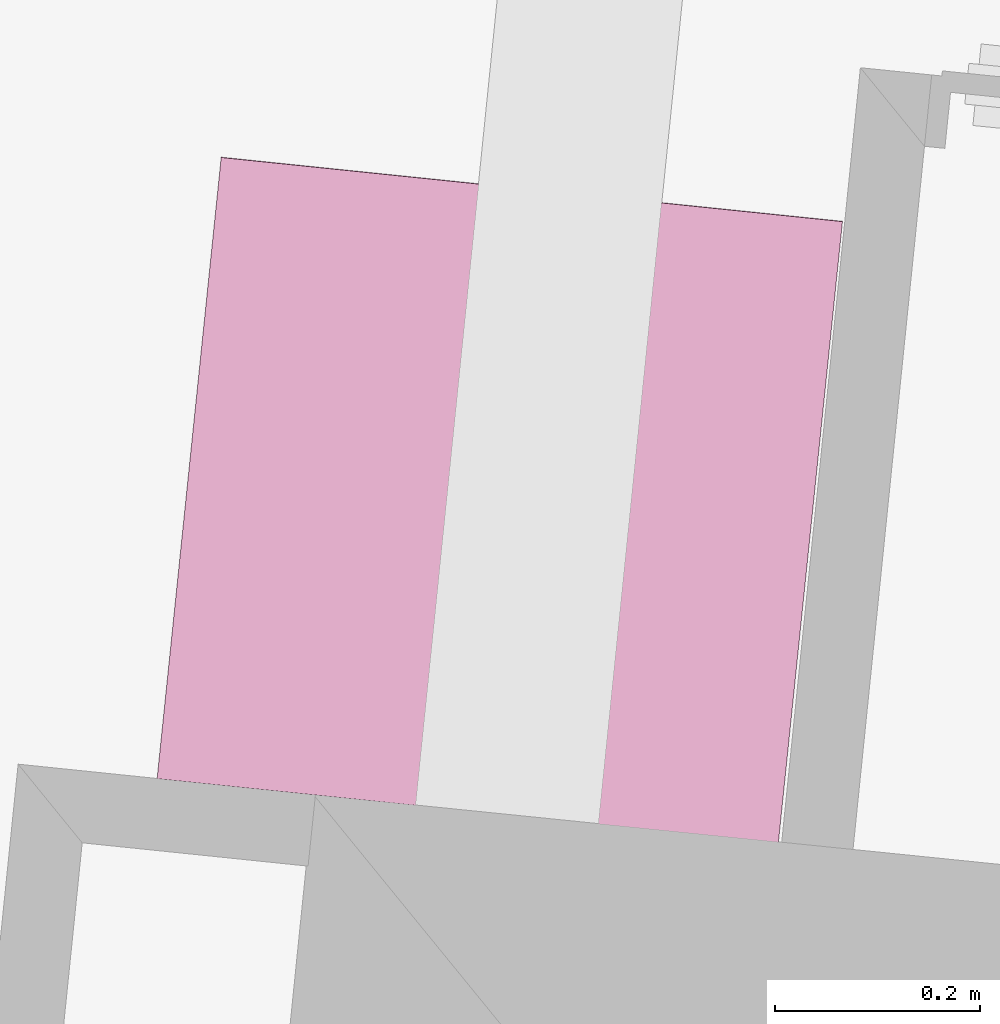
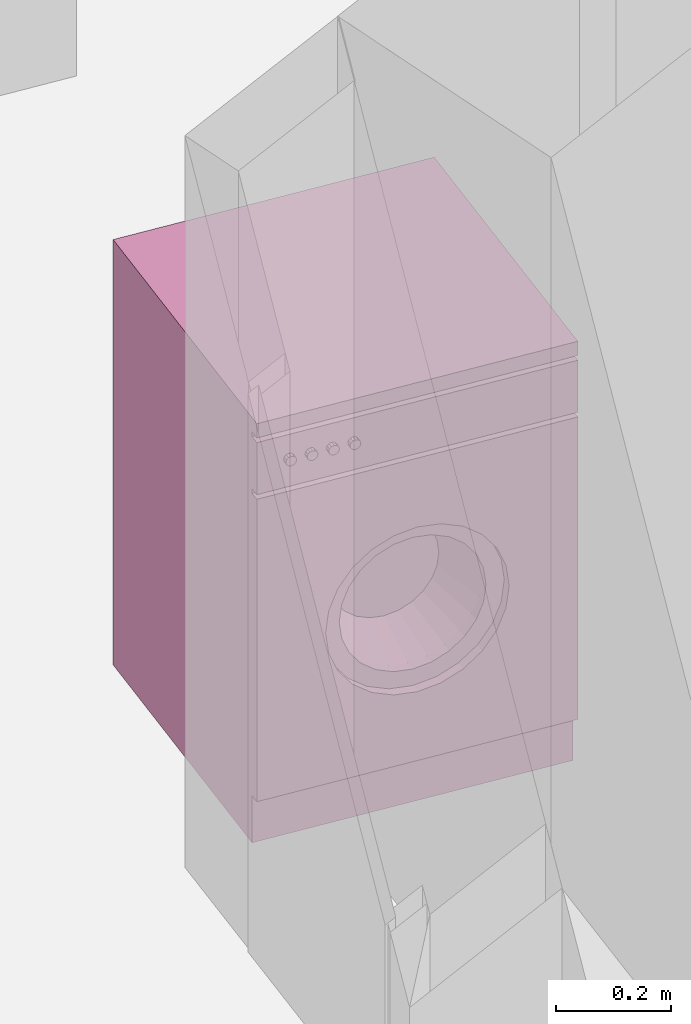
# One storey, part 132 of 164: 1 furnishing.
"""IFC2X3 building model written with IfcOpenShell, lengths in millimetres."""

import ifcopenshell
import ifcopenshell.guid

model = None  # the IFC model being written
_history = None  # IfcOwnerHistory: only IFC2X3 demands one
_inside = {}  # id of a spatial element -> (the spatial element, [elements in it])
_under = {}  # id of a project, library or spatial element -> (it, [spatial elements below it])
_declared = {}  # id of a project -> (the project, [libraries it declares])
_typed = {}  # id of a type object -> (the type object, [elements of that type])
_made_of = {}  # id of a material, layer set ... -> (it, [elements and type objects made of it])


def new_model(schema):
    """Start an empty IFC model of exactly this schema.

    Asked for "IFC4X3", IfcOpenShell would pick the latest addendum, in which some entities
    have other attributes; the version numbers below select the first issue.
    IFC2X3 requires an IfcOwnerHistory on every rooted entity: one is made here for all.
    """
    global model, _history
    if schema == "IFC4X3":
        model = ifcopenshell.file(schema_version=(4, 3, 0, 0))
    else:
        model = ifcopenshell.file(schema=schema)
    _inside.clear()
    _under.clear()
    _declared.clear()
    _typed.clear()
    _made_of.clear()
    _history = None
    if model.schema == "IFC2X3":
        org = make("IfcOrganization", Name="unknown")
        user = make(
            "IfcPersonAndOrganization",
            ThePerson=make("IfcPerson", FamilyName="unknown"),
            TheOrganization=org,
        )
        app = make(
            "IfcApplication",
            ApplicationDeveloper=org,
            Version="unknown",
            ApplicationFullName="unknown",
            ApplicationIdentifier="unknown",
        )
        _history = make(
            "IfcOwnerHistory",
            OwningUser=user,
            OwningApplication=app,
            ChangeAction="ADDED",
            CreationDate=0,
        )
    return model


def make(cls, **values):
    """One entity of the class cls with the attributes given. An attribute that is None is left unset."""
    return model.create_entity(
        cls, **{name: value for name, value in values.items() if value is not None}
    )


def entity(cls, *values):
    """Any entity or typed value of the class cls, its attributes in the order of the schema. None: left unset."""
    e = model.create_entity(cls)
    for i, value in enumerate(values):
        if value is not None:
            e[i] = value
    return e


def rooted(cls, **values):
    """An entity with a GlobalId (a new one), such as an element, a storey or a relation."""
    return make(cls, GlobalId=ifcopenshell.guid.new(), OwnerHistory=_history, **values)


def si_unit(unit_type, name, prefix=None):
    """IfcSIUnit, for example si_unit("LENGTHUNIT", "METRE", prefix="MILLI")."""
    return make("IfcSIUnit", UnitType=unit_type, Prefix=prefix, Name=name)


def converted_unit(unit_type, name, factor, base, dimensions=None, offset=None):
    """IfcConversionBasedUnit, such as the inch: factor (a typed value) times the base unit."""
    return make(
        "IfcConversionBasedUnit"
        if offset is None
        else "IfcConversionBasedUnitWithOffset",
        ConversionOffset=offset,
        Dimensions=None
        if dimensions is None
        else entity("IfcDimensionalExponents", *dimensions),
        UnitType=unit_type,
        Name=name,
        ConversionFactor=make(
            "IfcMeasureWithUnit", ValueComponent=factor, UnitComponent=base
        ),
    )


def derived_unit(unit_type, elements):
    """IfcDerivedUnit: a product of units, each with its exponent."""
    return make(
        "IfcDerivedUnit",
        Elements=[
            make("IfcDerivedUnitElement", Unit=unit, Exponent=power)
            for unit, power in elements
        ],
        UnitType=unit_type,
    )


def money_unit(currency):
    """IfcMonetaryUnit."""
    return make("IfcMonetaryUnit", Currency=currency)


def assignment(units):
    """IfcUnitAssignment: the units of a project."""
    return None if units is None else make("IfcUnitAssignment", Units=units)


def point(xyz):
    """IfcCartesianPoint."""
    return None if xyz is None else make("IfcCartesianPoint", Coordinates=xyz)


def direction(xyz):
    """IfcDirection."""
    return None if xyz is None else make("IfcDirection", DirectionRatios=xyz)


def frame(location, z_axis=None, x_axis=None):
    """IfcAxis2Placement3D, a coordinate frame: its origin and axes. An axis left out is left unset."""
    return make(
        "IfcAxis2Placement3D",
        Location=point(location),
        Axis=direction(z_axis),
        RefDirection=direction(x_axis),
    )


def origin_with_axes():
    """The frame at (0, 0, 0) with the z axis (0, 0, 1) and the x axis (1, 0, 0) written out."""
    return frame((0.0, 0.0, 0.0), z_axis=(0.0, 0.0, 1.0), x_axis=(1.0, 0.0, 0.0))


def place(relative_to, where):
    """IfcLocalPlacement: puts the frame where relative to a parent placement (None: the world)."""
    return make(
        "IfcLocalPlacement", PlacementRelTo=relative_to, RelativePlacement=where
    )


def context(
    kind, dimensions, precision=None, world=None, true_north=None, identifier=None
):
    """IfcGeometricRepresentationContext, for example the 3D "Model" context."""
    return make(
        "IfcGeometricRepresentationContext",
        ContextIdentifier=identifier,
        ContextType=kind,
        CoordinateSpaceDimension=dimensions,
        Precision=precision,
        WorldCoordinateSystem=world,
        TrueNorth=true_north,
    )


def subcontext(parent, identifier, kind, view, scale=None):
    """IfcGeometricRepresentationSubContext, for example "Body" below "Model"."""
    return make(
        "IfcGeometricRepresentationSubContext",
        ContextIdentifier=identifier,
        ContextType=kind,
        ParentContext=parent,
        TargetScale=scale,
        TargetView=view,
    )


def project(units=None, contexts=None):
    """IfcProject with its units and contexts."""
    return rooted(
        "IfcProject",
        Name="project",
        RepresentationContexts=contexts,
        UnitsInContext=assignment(units),
    )


def spatial(cls, under=None, at=None, **own):
    """A site, building, storey or space (cls), placed at a placement, below another one or the project."""
    s = rooted(cls, ObjectPlacement=at, **own)
    if under is not None:
        _under.setdefault(under.id(), (under, []))[1].append(s)
    return s


def faces_of(points, faces, orient=None, outer=None):
    """IfcFace entities. A face is a list of loops; a loop is a list of indices into points, from 0.

    orient and outer hold one flag for each loop. By default every Orientation is true, the
    first loop of a face is its IfcFaceOuterBound and the others are IfcFaceBound.
    """
    made = []
    for i, loops in enumerate(faces):
        bounds = []
        for j, loop in enumerate(loops):
            is_outer = j == 0 if outer is None else outer[i][j]
            bounds.append(
                make(
                    "IfcFaceOuterBound" if is_outer else "IfcFaceBound",
                    Bound=make("IfcPolyLoop", Polygon=[points[k] for k in loop]),
                    Orientation=True if orient is None else orient[i][j],
                )
            )
        made.append(make("IfcFace", Bounds=bounds))
    return made


def open_shell(faces, orient=None, outer=None):
    """The faces of one IfcOpenShell. surface_model builds it on its shared points."""
    return ("IfcOpenShell", faces, orient, outer)


def faceted_brep(points, faces, orient=None, outer=None, voids=None):
    """IfcFacetedBrep: a solid bounded by flat faces; with voids (closed shells), ...WithVoids."""
    shared = [point(p) for p in points]
    hull = make("IfcClosedShell", CfsFaces=faces_of(shared, faces, orient, outer))
    if voids is None:
        return make("IfcFacetedBrep", Outer=hull)
    return make(
        "IfcFacetedBrepWithVoids",
        Outer=hull,
        Voids=[
            make(cls, CfsFaces=faces_of(shared, fs, o, b)) for cls, fs, o, b in voids
        ],
    )


def surface_model(cls, points, shells):
    """IfcFaceBasedSurfaceModel or IfcShellBasedSurfaceModel (cls): surfaces that need not close."""
    shared = [point(p) for p in points]
    made = [make(c, CfsFaces=faces_of(shared, fs, o, b)) for c, fs, o, b in shells]
    if cls == "IfcFaceBasedSurfaceModel":
        return make(cls, FbsmFaces=made)
    return make(cls, SbsmBoundary=made)


def shape(context_of_items, identifier, shape_type, items):
    """IfcShapeRepresentation: the items that make up one representation, for example the "Body"."""
    return make(
        "IfcShapeRepresentation",
        ContextOfItems=context_of_items,
        RepresentationIdentifier=identifier,
        RepresentationType=shape_type,
        Items=items,
    )


def source(mapping_origin, context_of_items, identifier, shape_type, items):
    """IfcRepresentationMap: a shape defined once, which mapped items show again and again."""
    return make(
        "IfcRepresentationMap",
        MappingOrigin=mapping_origin,
        MappedRepresentation=shape(context_of_items, identifier, shape_type, items),
    )


def transform(
    local_origin,
    x_axis=None,
    y_axis=None,
    z_axis=None,
    scale=None,
    scale2=None,
    scale3=None,
    uniform=True,
):
    """IfcCartesianTransformationOperator3D, or its non-uniform kind. x_axis, y_axis, z_axis: its Axis1, 2, 3."""
    if uniform:
        return make(
            "IfcCartesianTransformationOperator3D",
            Axis1=direction(x_axis),
            Axis2=direction(y_axis),
            LocalOrigin=point(local_origin),
            Scale=scale,
            Axis3=direction(z_axis),
        )
    return make(
        "IfcCartesianTransformationOperator3DnonUniform",
        Axis1=direction(x_axis),
        Axis2=direction(y_axis),
        LocalOrigin=point(local_origin),
        Scale=scale,
        Axis3=direction(z_axis),
        Scale2=scale2,
        Scale3=scale3,
    )


def mapped(mapping_source, mapping_target):
    """IfcMappedItem: shows the shape of a source again, moved by a transform."""
    return make(
        "IfcMappedItem", MappingSource=mapping_source, MappingTarget=mapping_target
    )


def made_of(thing, what):
    """Note that an element or type object is made of a material, layer set ...; save() writes the relation."""
    if what is not None:
        _made_of.setdefault(what.id(), (what, []))[1].append(thing)
    return thing


def type_object(cls, material=None, **own):
    """A type object (cls), such as IfcWallType, which elements share."""
    return made_of(rooted(cls, **own), material)


def element(
    cls,
    number,
    at=None,
    inside=None,
    cuts=None,
    type_object=None,
    material=None,
    context=None,
    identifier="Body",
    shape_type=None,
    held_by="IfcProductDefinitionShape",
    body=None,
    shapes=None,
    **own,
):
    """One element of the class cls, such as IfcWall. Its Tag is "e" and its number.

    at: its placement. inside: the storey or other place that contains it. cuts: it is an
    opening in that element (IfcRelVoidsElement). A single representation is given by context,
    identifier, shape_type and body (its items); several are given by shapes. held_by: the class
    of the entity that holds the representations. save() writes the other relations.
    """
    e = rooted(cls, Tag="e%d" % number, ObjectPlacement=at, **own)
    if body is not None:
        shapes = [shape(context, identifier, shape_type, body)]
    if shapes is not None:
        e.Representation = make(held_by, Representations=shapes)
    if inside is not None:
        _inside.setdefault(inside.id(), (inside, []))[1].append(e)
    if cuts is not None:
        rooted(
            "IfcRelVoidsElement", RelatingBuildingElement=cuts, RelatedOpeningElement=e
        )
    if type_object is not None:
        _typed.setdefault(type_object.id(), (type_object, []))[1].append(e)
    return made_of(e, material)


def aggregate(whole, parts):
    """IfcRelAggregates: a whole, such as a stair, and the parts it consists of."""
    return rooted("IfcRelAggregates", RelatingObject=whole, RelatedObjects=parts)


def save(model, path):
    """Write the relations noted so far, then the file.

    IfcRelAggregates (storeys below a building ...), IfcRelContainedInSpatialStructure (elements
    in a storey), IfcRelDefinesByType, IfcRelAssociatesMaterial and IfcRelDeclares: one each for
    every whole, place, type object, material and project.
    """
    for whole, parts in _under.values():
        aggregate(whole, parts)
    for where, things in _inside.values():
        rooted(
            "IfcRelContainedInSpatialStructure",
            RelatedElements=things,
            RelatingStructure=where,
        )
    for kind, things in _typed.values():
        rooted("IfcRelDefinesByType", RelatedObjects=things, RelatingType=kind)
    for what, things in _made_of.values():
        rooted("IfcRelAssociatesMaterial", RelatedObjects=things, RelatingMaterial=what)
    for by, libraries in _declared.values():
        rooted("IfcRelDeclares", RelatingContext=by, RelatedDefinitions=libraries)
    model.write(path)


model = new_model("IFC2X3")

# Units and contexts
model_context = context("Model", 3, precision=0.01, world=origin_with_axes(), true_north=direction((0.0, 1.0)))
body_context = subcontext(model_context, "Body", "Model", "MODEL_VIEW")
ifc_project = project(units=[si_unit("LENGTHUNIT", "METRE", prefix="MILLI"), si_unit("AREAUNIT", "SQUARE_METRE"), si_unit("VOLUMEUNIT", "CUBIC_METRE"), converted_unit("PLANEANGLEUNIT", "DEGREE", entity("IfcPlaneAngleMeasure", 0.0174532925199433), si_unit("PLANEANGLEUNIT", "RADIAN"), dimensions=[0, 0, 0, 0, 0, 0, 0]), money_unit("USD"), converted_unit("TIMEUNIT", "Year", entity("IfcTimeMeasure", 31557600.0), si_unit("TIMEUNIT", "SECOND"), dimensions=[0, 0, 1, 0, 0, 0, 0]), si_unit("MASSUNIT", "GRAM", prefix="KILO"), si_unit("THERMODYNAMICTEMPERATUREUNIT", "DEGREE_CELSIUS"), si_unit("LUMINOUSINTENSITYUNIT", "LUMEN"), si_unit("ENERGYUNIT", "JOULE", prefix="MEGA"), derived_unit("THERMALCONDUCTANCEUNIT", [(si_unit("POWERUNIT", "WATT"), 1), (si_unit("LENGTHUNIT", "METRE"), -1), (si_unit("THERMODYNAMICTEMPERATUREUNIT", "KELVIN"), -1)]), derived_unit("SPECIFICHEATCAPACITYUNIT", [(si_unit("ENERGYUNIT", "JOULE"), 1), (si_unit("MASSUNIT", "GRAM", prefix="KILO"), -1), (si_unit("THERMODYNAMICTEMPERATUREUNIT", "KELVIN"), -1)]), derived_unit("MASSDENSITYUNIT", [(si_unit("MASSUNIT", "GRAM", prefix="KILO"), 1), (si_unit("VOLUMEUNIT", "CUBIC_METRE"), -1)])], contexts=[model_context])

# Site, building, storey
site_placement = place(None, origin_with_axes())
site = spatial("IfcSite", under=ifc_project, at=site_placement, Name="Site", CompositionType="ELEMENT")
building_placement = place(site_placement, origin_with_axes())
building = spatial("IfcBuilding", under=site, at=building_placement, Name="Bâtiment", CompositionType="ELEMENT")
storey_placement = place(building_placement, frame((0.0, 0.0, 5750.0), z_axis=(0.0, 0.0, 1.0), x_axis=(1.0, 0.0, 0.0)))
storey = spatial("IfcBuildingStorey", under=building, at=storey_placement, Name="Etage1", CompositionType="ELEMENT", Elevation=5750.0)

# Furnishing
furnishing_element_type = type_object("IfcFurnishingElementType", Name="Machine à laver")
shared_shape = source(origin_with_axes(), body_context, "Body", "SurfaceModel", [
    faceted_brep([(0.0, 20.33333333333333, 100.0), (610.0, 20.33333333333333, 100.0), (610.0, 0.0, 100.0), (0.0, 0.0, 100.0), (0.0, 20.33333333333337, 740.0), (610.0, 20.33333333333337, 740.0), (479.2857142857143, 20.33333333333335, 420.0000000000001), (473.3470725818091, 20.33333333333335, 465.1084621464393), (455.935856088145, 20.33333333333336, 507.1428571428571), (428.2386104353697, 20.33333333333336, 543.2386104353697), (392.1428571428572, 20.33333333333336, 570.935856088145), (350.1084621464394, 20.33333333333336, 588.347072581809), (305.0000000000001, 20.33333333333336, 594.2857142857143), (259.8915378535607, 20.33333333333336, 588.347072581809), (217.8571428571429, 20.33333333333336, 570.9358560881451), (181.7613895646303, 20.33333333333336, 543.2386104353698), (154.0641439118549, 20.33333333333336, 507.1428571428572), (136.6529274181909, 20.33333333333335, 465.1084621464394), (130.7142857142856, 20.33333333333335, 420.0000000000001), (136.6529274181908, 20.33333333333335, 374.8915378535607), (154.0641439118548, 20.33333333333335, 332.8571428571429), (181.7613895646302, 20.33333333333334, 296.7613895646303), (217.8571428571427, 20.33333333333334, 269.064143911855), (259.8915378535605, 20.33333333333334, 251.6529274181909), (304.9999999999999, 20.33333333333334, 245.7142857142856), (350.1084621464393, 20.33333333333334, 251.6529274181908), (392.1428571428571, 20.33333333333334, 269.0641439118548), (428.2386104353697, 20.33333333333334, 296.7613895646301), (455.935856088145, 20.33333333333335, 332.8571428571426), (473.3470725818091, 20.33333333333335, 374.8915378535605), (610.0, 0.0, 740.0), (0.0, 0.0, 740.0), (479.2857142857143, 0.0, 420.0000000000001), (473.3470725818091, 0.0, 374.8915378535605), (455.935856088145, 0.0, 332.8571428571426), (428.2386104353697, 0.0, 296.7613895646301), (392.1428571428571, 0.0, 269.0641439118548), (350.1084621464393, 0.0, 251.6529274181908), (304.9999999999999, 0.0, 245.7142857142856), (259.8915378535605, 0.0, 251.6529274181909), (217.8571428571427, 0.0, 269.064143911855), (181.7613895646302, 0.0, 296.7613895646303), (154.0641439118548, 0.0, 332.8571428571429), (136.6529274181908, 0.0, 374.8915378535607), (130.7142857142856, 0.0, 420.0000000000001), (136.6529274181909, 0.0, 465.1084621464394), (154.0641439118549, 0.0, 507.1428571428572), (181.7613895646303, 0.0, 543.2386104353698), (217.8571428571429, 0.0, 570.9358560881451), (259.8915378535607, 0.0, 588.347072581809), (305.0000000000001, 0.0, 594.2857142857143), (350.1084621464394, 0.0, 588.347072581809), (392.1428571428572, 0.0, 570.935856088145), (428.2386104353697, 0.0, 543.2386104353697), (455.935856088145, 0.0, 507.1428571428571), (473.3470725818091, 0.0, 465.1084621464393)], [[[0, 1, 2, 3]], [[0, 4, 5, 1], [6, 7, 8, 9, 10, 11, 12, 13, 14, 15, 16, 17, 18, 19, 20, 21, 22, 23, 24, 25, 26, 27, 28, 29]], [[1, 5, 30, 2]], [[3, 2, 30, 31], [32, 33, 34, 35, 36, 37, 38, 39, 40, 41, 42, 43, 44, 45, 46, 47, 48, 49, 50, 51, 52, 53, 54, 55]], [[4, 0, 3, 31]], [[5, 4, 31, 30]], [[7, 6, 32, 55]], [[8, 7, 55, 54]], [[9, 8, 54, 53]], [[10, 9, 53, 52]], [[11, 10, 52, 51]], [[12, 11, 51, 50]], [[13, 12, 50, 49]], [[14, 13, 49, 48]], [[15, 14, 48, 47]], [[16, 15, 47, 46]], [[17, 16, 46, 45]], [[18, 17, 45, 44]], [[19, 18, 44, 43]], [[20, 19, 43, 42]], [[21, 20, 42, 41]], [[22, 21, 41, 40]], [[23, 22, 40, 39]], [[24, 23, 39, 38]], [[25, 24, 38, 37]], [[26, 25, 37, 36]], [[27, 26, 36, 35]], [[28, 27, 35, 34]], [[29, 28, 34, 33]], [[6, 29, 33, 32]]]),
    faceted_brep([(479.2857142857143, 40.66666666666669, 420.0000000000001), (473.3470725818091, 40.66666666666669, 465.1084621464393), (473.3470725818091, 20.33333333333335, 465.1084621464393), (479.2857142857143, 20.33333333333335, 420.0000000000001), (473.3470725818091, 40.66666666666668, 374.8915378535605), (455.935856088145, 40.66666666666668, 332.8571428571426), (428.2386104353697, 40.66666666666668, 296.7613895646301), (392.1428571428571, 40.66666666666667, 269.0641439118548), (350.1084621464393, 40.66666666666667, 251.6529274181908), (304.9999999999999, 40.66666666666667, 245.7142857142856), (259.8915378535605, 40.66666666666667, 251.6529274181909), (217.8571428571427, 40.66666666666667, 269.064143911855), (181.7613895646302, 40.66666666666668, 296.7613895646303), (154.0641439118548, 40.66666666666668, 332.8571428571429), (136.6529274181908, 40.66666666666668, 374.8915378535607), (130.7142857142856, 40.66666666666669, 420.0000000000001), (136.6529274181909, 40.66666666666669, 465.1084621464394), (154.0641439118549, 40.66666666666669, 507.1428571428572), (181.7613895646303, 40.66666666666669, 543.2386104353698), (217.8571428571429, 40.66666666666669, 570.9358560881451), (259.8915378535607, 40.66666666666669, 588.347072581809), (305.0000000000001, 40.66666666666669, 594.2857142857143), (350.1084621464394, 40.66666666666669, 588.347072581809), (392.1428571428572, 40.66666666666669, 570.935856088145), (428.2386104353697, 40.66666666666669, 543.2386104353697), (455.935856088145, 40.66666666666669, 507.1428571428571), (444.4285714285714, 40.66666666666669, 420.0000000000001), (439.6776580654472, 40.66666666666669, 456.0867697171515), (425.748684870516, 40.66666666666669, 489.7142857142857), (403.5908883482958, 40.66666666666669, 518.5908883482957), (374.7142857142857, 40.66666666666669, 540.748684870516), (341.0867697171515, 40.66666666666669, 554.6776580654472), (305.0000000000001, 40.66666666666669, 559.4285714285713), (268.9132302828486, 40.66666666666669, 554.6776580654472), (235.2857142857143, 40.66666666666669, 540.7486848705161), (206.4091116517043, 40.66666666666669, 518.5908883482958), (184.251315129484, 40.66666666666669, 489.7142857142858), (170.3223419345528, 40.66666666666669, 456.0867697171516), (165.5714285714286, 40.66666666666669, 420.0000000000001), (170.3223419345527, 40.66666666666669, 383.9132302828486), (184.2513151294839, 40.66666666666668, 350.2857142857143), (206.4091116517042, 40.66666666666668, 321.4091116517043), (235.2857142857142, 40.66666666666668, 299.251315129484), (268.9132302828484, 40.66666666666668, 285.3223419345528), (304.9999999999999, 40.66666666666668, 280.5714285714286), (341.0867697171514, 40.66666666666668, 285.3223419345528), (374.7142857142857, 40.66666666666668, 299.2513151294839), (403.5908883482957, 40.66666666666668, 321.4091116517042), (425.748684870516, 40.66666666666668, 350.2857142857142), (439.6776580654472, 40.66666666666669, 383.9132302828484), (455.935856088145, 20.33333333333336, 507.1428571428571), (428.2386104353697, 20.33333333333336, 543.2386104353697), (392.1428571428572, 20.33333333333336, 570.935856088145), (350.1084621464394, 20.33333333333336, 588.347072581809), (305.0000000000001, 20.33333333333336, 594.2857142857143), (259.8915378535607, 20.33333333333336, 588.347072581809), (217.8571428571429, 20.33333333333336, 570.9358560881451), (181.7613895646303, 20.33333333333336, 543.2386104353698), (154.0641439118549, 20.33333333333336, 507.1428571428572), (136.6529274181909, 20.33333333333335, 465.1084621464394), (130.7142857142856, 20.33333333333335, 420.0000000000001), (136.6529274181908, 20.33333333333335, 374.8915378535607), (154.0641439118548, 20.33333333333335, 332.8571428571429), (181.7613895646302, 20.33333333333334, 296.7613895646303), (217.8571428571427, 20.33333333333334, 269.064143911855), (259.8915378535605, 20.33333333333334, 251.6529274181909), (304.9999999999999, 20.33333333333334, 245.7142857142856), (350.1084621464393, 20.33333333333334, 251.6529274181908), (392.1428571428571, 20.33333333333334, 269.0641439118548), (428.2386104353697, 20.33333333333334, 296.7613895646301), (455.935856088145, 20.33333333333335, 332.8571428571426), (473.3470725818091, 20.33333333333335, 374.8915378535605), (444.4285714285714, 20.33333333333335, 420.0000000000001), (439.6776580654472, 20.33333333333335, 383.9132302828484), (425.748684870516, 20.33333333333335, 350.2857142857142), (403.5908883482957, 20.33333333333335, 321.4091116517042), (374.7142857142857, 20.33333333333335, 299.2513151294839), (341.0867697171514, 20.33333333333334, 285.3223419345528), (304.9999999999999, 20.33333333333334, 280.5714285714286), (268.9132302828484, 20.33333333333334, 285.3223419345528), (235.2857142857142, 20.33333333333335, 299.251315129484), (206.4091116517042, 20.33333333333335, 321.4091116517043), (184.2513151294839, 20.33333333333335, 350.2857142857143), (170.3223419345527, 20.33333333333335, 383.9132302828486), (165.5714285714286, 20.33333333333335, 420.0000000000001), (170.3223419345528, 20.33333333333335, 456.0867697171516), (184.251315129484, 20.33333333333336, 489.7142857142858), (206.4091116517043, 20.33333333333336, 518.5908883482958), (235.2857142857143, 20.33333333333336, 540.7486848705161), (268.9132302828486, 20.33333333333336, 554.6776580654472), (305.0000000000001, 20.33333333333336, 559.4285714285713), (341.0867697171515, 20.33333333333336, 554.6776580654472), (374.7142857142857, 20.33333333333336, 540.748684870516), (403.5908883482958, 20.33333333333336, 518.5908883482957), (425.748684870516, 20.33333333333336, 489.7142857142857), (439.6776580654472, 20.33333333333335, 456.0867697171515)], [[[0, 1, 2, 3]], [[0, 4, 5, 6, 7, 8, 9, 10, 11, 12, 13, 14, 15, 16, 17, 18, 19, 20, 21, 22, 23, 24, 25, 1], [26, 27, 28, 29, 30, 31, 32, 33, 34, 35, 36, 37, 38, 39, 40, 41, 42, 43, 44, 45, 46, 47, 48, 49]], [[1, 25, 50, 2]], [[3, 2, 50, 51, 52, 53, 54, 55, 56, 57, 58, 59, 60, 61, 62, 63, 64, 65, 66, 67, 68, 69, 70, 71], [72, 73, 74, 75, 76, 77, 78, 79, 80, 81, 82, 83, 84, 85, 86, 87, 88, 89, 90, 91, 92, 93, 94, 95]], [[4, 0, 3, 71]], [[5, 4, 71, 70]], [[6, 5, 70, 69]], [[7, 6, 69, 68]], [[8, 7, 68, 67]], [[9, 8, 67, 66]], [[10, 9, 66, 65]], [[11, 10, 65, 64]], [[12, 11, 64, 63]], [[13, 12, 63, 62]], [[14, 13, 62, 61]], [[15, 14, 61, 60]], [[16, 15, 60, 59]], [[17, 16, 59, 58]], [[18, 17, 58, 57]], [[19, 18, 57, 56]], [[20, 19, 56, 55]], [[21, 20, 55, 54]], [[22, 21, 54, 53]], [[23, 22, 53, 52]], [[24, 23, 52, 51]], [[25, 24, 51, 50]], [[27, 26, 72, 95]], [[28, 27, 95, 94]], [[29, 28, 94, 93]], [[30, 29, 93, 92]], [[31, 30, 92, 91]], [[32, 31, 91, 90]], [[33, 32, 90, 89]], [[34, 33, 89, 88]], [[35, 34, 88, 87]], [[36, 35, 87, 86]], [[37, 36, 86, 85]], [[38, 37, 85, 84]], [[39, 38, 84, 83]], [[40, 39, 83, 82]], [[41, 40, 82, 81]], [[42, 41, 81, 80]], [[43, 42, 80, 79]], [[44, 43, 79, 78]], [[45, 44, 78, 77]], [[46, 45, 77, 76]], [[47, 46, 76, 75]], [[48, 47, 75, 74]], [[49, 48, 74, 73]], [[26, 49, 73, 72]]]),
    surface_model("IfcShellBasedSurfaceModel", [(268.9132302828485, 40.6666666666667, 554.6776580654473), (305.0, 40.6666666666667, 559.4285714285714), (305.0, 142.3333333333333, 524.5714285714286), (277.9349227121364, 142.3333333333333, 521.0082435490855), (341.0867697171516, 40.6666666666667, 554.6776580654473), (332.0650772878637, 142.3333333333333, 521.0082435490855), (357.2857142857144, 142.3333333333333, 510.5615136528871), (378.9431662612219, 142.3333333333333, 493.9431662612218), (395.5615136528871, 142.3333333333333, 472.2857142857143), (406.0082435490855, 142.3333333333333, 447.0650772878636), (409.5714285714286, 142.3333333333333, 420.0), (406.0082435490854, 142.3333333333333, 392.9349227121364), (395.561513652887, 142.3333333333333, 367.7142857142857), (378.9431662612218, 142.3333333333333, 346.0568337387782), (357.2857142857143, 142.3333333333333, 329.438486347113), (332.0650772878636, 142.3333333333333, 318.9917564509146), (304.9999999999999, 142.3333333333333, 315.4285714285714), (277.9349227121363, 142.3333333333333, 318.9917564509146), (252.7142857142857, 142.3333333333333, 329.438486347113), (231.0568337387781, 142.3333333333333, 346.0568337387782), (214.4384863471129, 142.3333333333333, 367.7142857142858), (203.9917564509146, 142.3333333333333, 392.9349227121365), (200.4285714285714, 142.3333333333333, 420.0000000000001), (203.9917564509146, 142.3333333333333, 447.0650772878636), (214.438486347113, 142.3333333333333, 472.2857142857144), (231.0568337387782, 142.3333333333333, 493.9431662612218), (252.7142857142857, 142.3333333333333, 510.5615136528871), (235.2857142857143, 40.6666666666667, 540.7486848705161), (374.7142857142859, 40.6666666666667, 540.7486848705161), (403.5908883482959, 40.66666666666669, 518.5908883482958), (425.7486848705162, 40.66666666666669, 489.7142857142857), (439.6776580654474, 40.66666666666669, 456.0867697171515), (444.4285714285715, 40.66666666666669, 419.9999999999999), (439.6776580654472, 40.66666666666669, 383.9132302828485), (425.748684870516, 40.66666666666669, 350.2857142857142), (403.5908883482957, 40.66666666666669, 321.4091116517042), (374.7142857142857, 40.66666666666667, 299.2513151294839), (341.0867697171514, 40.66666666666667, 285.3223419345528), (304.9999999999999, 40.66666666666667, 280.5714285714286), (268.9132302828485, 40.66666666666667, 285.3223419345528), (235.2857142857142, 40.66666666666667, 299.251315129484), (206.4091116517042, 40.66666666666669, 321.4091116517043), (184.2513151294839, 40.66666666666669, 350.2857142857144), (170.3223419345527, 40.66666666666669, 383.9132302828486), (165.5714285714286, 40.66666666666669, 420.0000000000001), (170.3223419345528, 40.66666666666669, 456.0867697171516), (184.251315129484, 40.66666666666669, 489.7142857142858), (206.4091116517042, 40.66666666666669, 518.5908883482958)], [open_shell([[[0, 1, 2, 3]], [[1, 4, 5, 2]], [[2, 5, 6, 7, 8, 9, 10, 11, 12, 13, 14, 15, 16, 17, 18, 19, 20, 21, 22, 23, 24, 25, 26, 3]], [[27, 0, 3, 26]], [[4, 28, 6, 5]], [[28, 29, 7, 6]], [[29, 30, 8, 7]], [[30, 31, 9, 8]], [[31, 32, 10, 9]], [[32, 33, 11, 10]], [[33, 34, 12, 11]], [[34, 35, 13, 12]], [[35, 36, 14, 13]], [[36, 37, 15, 14]], [[37, 38, 16, 15]], [[38, 39, 17, 16]], [[39, 40, 18, 17]], [[40, 41, 19, 18]], [[41, 42, 20, 19]], [[42, 43, 21, 20]], [[43, 44, 22, 21]], [[44, 45, 23, 22]], [[45, 46, 24, 23]], [[46, 47, 25, 24]], [[47, 27, 26, 25]]])]),
    surface_model("IfcShellBasedSurfaceModel", [(0.0, 20.33333333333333, 100.0), (0.0, 20.33333333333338, 870.0), (0.0, 610.0, 870.0), (0.0, 610.0, 99.99999999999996)], [open_shell([[[0, 1, 2, 3]]])]),
    surface_model("IfcShellBasedSurfaceModel", [(610.0, 20.33333333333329, 100.0), (610.0, 20.33333333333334, 870.0), (610.0, 610.0, 870.0), (610.0, 610.0, 99.99999999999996)], [open_shell([[[0, 1, 2, 3]]])]),
    surface_model("IfcShellBasedSurfaceModel", [(0.0, 610.0, 100.0), (0.0, 610.0, 870.0), (610.0, 610.0, 870.0), (610.0, 610.0, 100.0)], [open_shell([[[0, 1, 2, 3]]])]),
    faceted_brep([(0.0, 20.33333333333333, 0.0), (610.0, 20.33333333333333, 0.0), (610.0, 20.33333333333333, 100.0), (0.0, 20.33333333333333, 100.0), (0.0, 610.3333333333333, 0.0), (610.0, 610.3333333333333, 0.0), (610.0, 610.3333333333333, 100.0), (0.0, 610.3333333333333, 100.0)], [[[0, 1, 2, 3]], [[0, 4, 5, 1]], [[1, 5, 6, 2]], [[3, 2, 6, 7]], [[4, 0, 3, 7]], [[5, 4, 7, 6]]]),
    faceted_brep([(0.0, 20.33333333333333, 750.0), (610.0, 20.33333333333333, 750.0), (610.0, 0.0, 750.0), (0.0, 0.0, 750.0), (0.0, 20.33333333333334, 860.0), (610.0, 20.33333333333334, 860.0), (610.0, 0.0, 860.0), (0.0, 0.0, 860.0)], [[[0, 1, 2, 3]], [[0, 4, 5, 1]], [[1, 5, 6, 2]], [[3, 2, 6, 7]], [[4, 0, 3, 7]], [[5, 4, 7, 6]]]),
    surface_model("IfcShellBasedSurfaceModel", [(0.0, 20.33333333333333, 739.8333333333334), (0.0, 20.33333333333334, 869.8333333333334), (610.0, 20.33333333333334, 869.8333333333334), (610.0, 20.33333333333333, 739.8333333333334)], [open_shell([[[0, 1, 2, 3]]])]),
    faceted_brep([(0.0, 0.0, 870.0), (610.0, 0.0, 870.0), (610.0, 0.0, 900.0), (0.0, 0.0, 900.0), (0.0, 610.0, 870.0), (610.0, 610.0, 870.0), (610.0, 610.0, 900.0), (0.0, 610.0, 900.0)], [[[0, 1, 2, 3]], [[0, 4, 5, 1]], [[1, 5, 6, 2]], [[3, 2, 6, 7]], [[4, 0, 3, 7]], [[5, 4, 7, 6]]]),
    faceted_brep([(69.80459160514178, 0.0, 804.9166666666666), (66.08333333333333, 0.0, 801.1954083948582), (60.99999999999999, 0.0, 799.8333333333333), (55.91666666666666, 0.0, 801.1954083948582), (52.1954083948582, 0.0, 804.9166666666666), (50.83333333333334, 0.0, 809.9999999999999), (52.19540839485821, 0.0, 815.0833333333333), (55.91666666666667, 0.0, 818.8045916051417), (61.0, 0.0, 820.1666666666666), (66.08333333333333, 0.0, 818.8045916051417), (69.8045916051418, 0.0, 815.0833333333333), (71.16666666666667, 0.0, 809.9999999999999), (69.80459160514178, -10.16666666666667, 804.9166666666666), (66.08333333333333, -10.16666666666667, 801.1954083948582), (60.99999999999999, -10.16666666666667, 799.8333333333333), (55.91666666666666, -10.16666666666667, 801.1954083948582), (52.1954083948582, -10.16666666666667, 804.9166666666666), (50.83333333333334, -10.16666666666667, 809.9999999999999), (52.19540839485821, -10.16666666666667, 815.0833333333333), (55.91666666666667, -10.16666666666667, 818.8045916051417), (61.0, -10.16666666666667, 820.1666666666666), (66.08333333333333, -10.16666666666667, 818.8045916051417), (69.8045916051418, -10.16666666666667, 815.0833333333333), (71.16666666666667, -10.16666666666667, 809.9999999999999)], [[[0, 1, 2, 3, 4, 5, 6, 7, 8, 9, 10, 11]], [[1, 0, 12, 13]], [[2, 1, 13, 14]], [[3, 2, 14, 15]], [[4, 3, 15, 16]], [[5, 4, 16, 17]], [[6, 5, 17, 18]], [[7, 6, 18, 19]], [[8, 7, 19, 20]], [[9, 8, 20, 21]], [[10, 9, 21, 22]], [[11, 10, 22, 23]], [[0, 11, 23, 12]], [[12, 23, 22, 21, 20, 19, 18, 17, 16, 15, 14, 13]]]),
    faceted_brep([(110.4712582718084, 0.0, 804.9166666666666), (106.75, 0.0, 801.1954083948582), (101.6666666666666, 0.0, 799.8333333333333), (96.58333333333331, 0.0, 801.1954083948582), (92.86207506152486, 0.0, 804.9166666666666), (91.49999999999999, 0.0, 809.9999999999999), (92.86207506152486, 0.0, 815.0833333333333), (96.58333333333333, 0.0, 818.8045916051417), (101.6666666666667, 0.0, 820.1666666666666), (106.75, 0.0, 818.8045916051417), (110.4712582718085, 0.0, 815.0833333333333), (111.8333333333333, 0.0, 809.9999999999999), (110.4712582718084, -10.16666666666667, 804.9166666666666), (106.75, -10.16666666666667, 801.1954083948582), (101.6666666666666, -10.16666666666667, 799.8333333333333), (96.58333333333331, -10.16666666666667, 801.1954083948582), (92.86207506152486, -10.16666666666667, 804.9166666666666), (91.49999999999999, -10.16666666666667, 809.9999999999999), (92.86207506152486, -10.16666666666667, 815.0833333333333), (96.58333333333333, -10.16666666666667, 818.8045916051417), (101.6666666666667, -10.16666666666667, 820.1666666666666), (106.75, -10.16666666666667, 818.8045916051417), (110.4712582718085, -10.16666666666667, 815.0833333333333), (111.8333333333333, -10.16666666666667, 809.9999999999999)], [[[0, 1, 2, 3, 4, 5, 6, 7, 8, 9, 10, 11]], [[1, 0, 12, 13]], [[2, 1, 13, 14]], [[3, 2, 14, 15]], [[4, 3, 15, 16]], [[5, 4, 16, 17]], [[6, 5, 17, 18]], [[7, 6, 18, 19]], [[8, 7, 19, 20]], [[9, 8, 20, 21]], [[10, 9, 21, 22]], [[11, 10, 22, 23]], [[0, 11, 23, 12]], [[12, 23, 22, 21, 20, 19, 18, 17, 16, 15, 14, 13]]]),
    faceted_brep([(151.1379249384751, 0.0, 804.9166666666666), (147.4166666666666, 0.0, 801.1954083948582), (142.3333333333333, 0.0, 799.8333333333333), (137.25, 0.0, 801.1954083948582), (133.5287417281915, 0.0, 804.9166666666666), (132.1666666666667, 0.0, 809.9999999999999), (133.5287417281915, 0.0, 815.0833333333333), (137.25, 0.0, 818.8045916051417), (142.3333333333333, 0.0, 820.1666666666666), (147.4166666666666, 0.0, 818.8045916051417), (151.1379249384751, 0.0, 815.0833333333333), (152.5, 0.0, 809.9999999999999), (151.1379249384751, -10.16666666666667, 804.9166666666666), (147.4166666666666, -10.16666666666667, 801.1954083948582), (142.3333333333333, -10.16666666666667, 799.8333333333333), (137.25, -10.16666666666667, 801.1954083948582), (133.5287417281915, -10.16666666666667, 804.9166666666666), (132.1666666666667, -10.16666666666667, 809.9999999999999), (133.5287417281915, -10.16666666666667, 815.0833333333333), (137.25, -10.16666666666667, 818.8045916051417), (142.3333333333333, -10.16666666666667, 820.1666666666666), (147.4166666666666, -10.16666666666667, 818.8045916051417), (151.1379249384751, -10.16666666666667, 815.0833333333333), (152.5, -10.16666666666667, 809.9999999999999)], [[[0, 1, 2, 3, 4, 5, 6, 7, 8, 9, 10, 11]], [[1, 0, 12, 13]], [[2, 1, 13, 14]], [[3, 2, 14, 15]], [[4, 3, 15, 16]], [[5, 4, 16, 17]], [[6, 5, 17, 18]], [[7, 6, 18, 19]], [[8, 7, 19, 20]], [[9, 8, 20, 21]], [[10, 9, 21, 22]], [[11, 10, 22, 23]], [[0, 11, 23, 12]], [[12, 23, 22, 21, 20, 19, 18, 17, 16, 15, 14, 13]]]),
    faceted_brep([(191.8045916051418, 0.0, 804.9166666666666), (188.0833333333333, 0.0, 801.1954083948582), (183.0, 0.0, 799.8333333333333), (177.9166666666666, 0.0, 801.1954083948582), (174.1954083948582, 0.0, 804.9166666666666), (172.8333333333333, 0.0, 809.9999999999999), (174.1954083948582, 0.0, 815.0833333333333), (177.9166666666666, 0.0, 818.8045916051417), (183.0, 0.0, 820.1666666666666), (188.0833333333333, 0.0, 818.8045916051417), (191.8045916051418, 0.0, 815.0833333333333), (193.1666666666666, 0.0, 809.9999999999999), (191.8045916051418, -10.16666666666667, 804.9166666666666), (188.0833333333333, -10.16666666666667, 801.1954083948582), (183.0, -10.16666666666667, 799.8333333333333), (177.9166666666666, -10.16666666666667, 801.1954083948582), (174.1954083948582, -10.16666666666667, 804.9166666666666), (172.8333333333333, -10.16666666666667, 809.9999999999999), (174.1954083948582, -10.16666666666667, 815.0833333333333), (177.9166666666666, -10.16666666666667, 818.8045916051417), (183.0, -10.16666666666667, 820.1666666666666), (188.0833333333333, -10.16666666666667, 818.8045916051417), (191.8045916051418, -10.16666666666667, 815.0833333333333), (193.1666666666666, -10.16666666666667, 809.9999999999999)], [[[0, 1, 2, 3, 4, 5, 6, 7, 8, 9, 10, 11]], [[1, 0, 12, 13]], [[2, 1, 13, 14]], [[3, 2, 14, 15]], [[4, 3, 15, 16]], [[5, 4, 16, 17]], [[6, 5, 17, 18]], [[7, 6, 18, 19]], [[8, 7, 19, 20]], [[9, 8, 20, 21]], [[10, 9, 21, 22]], [[11, 10, 22, 23]], [[0, 11, 23, 12]], [[12, 23, 22, 21, 20, 19, 18, 17, 16, 15, 14, 13]]]),
])
furnishing_placement = place(storey_placement, frame((2223986.926228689, -607806.7294700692, 0.0), z_axis=(0.0, 0.0, 1.0), x_axis=(0.9947181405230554, -0.1026441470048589, 0.0)))
element("IfcFurnishingElement", 1, at=furnishing_placement, inside=storey, type_object=furnishing_element_type, Name="Obj.-003", context=body_context, shape_type="MappedRepresentation", body=[
    mapped(shared_shape, transform((0.0, 0.0, 0.0))),
])

save(model, "model.ifc")
